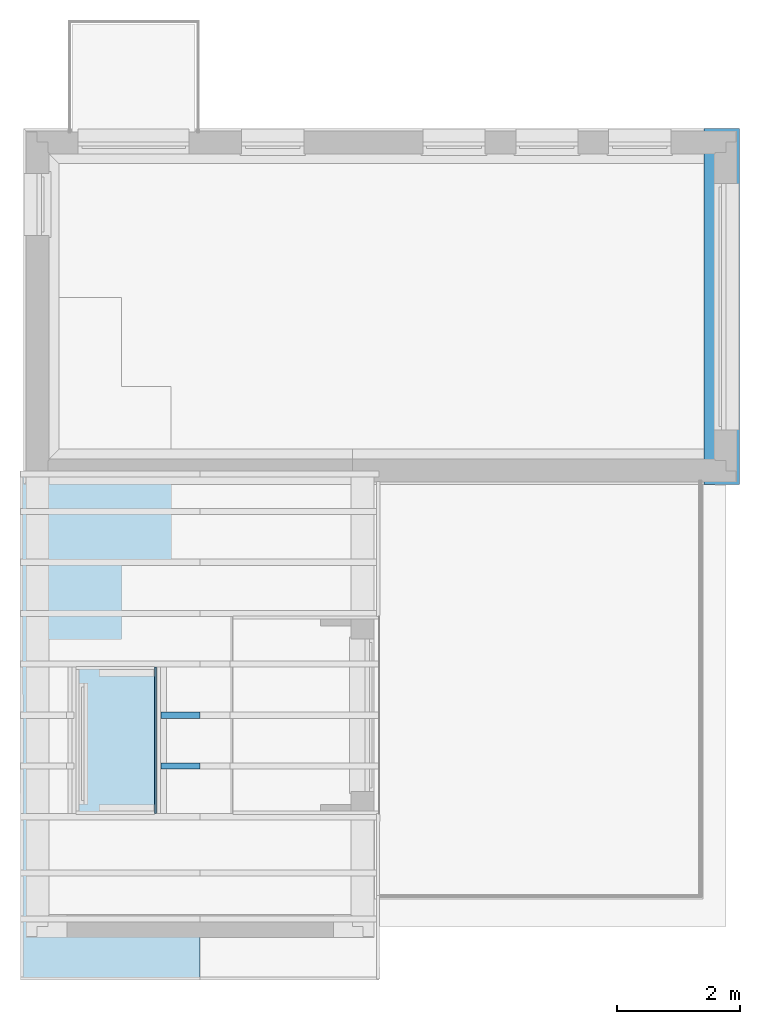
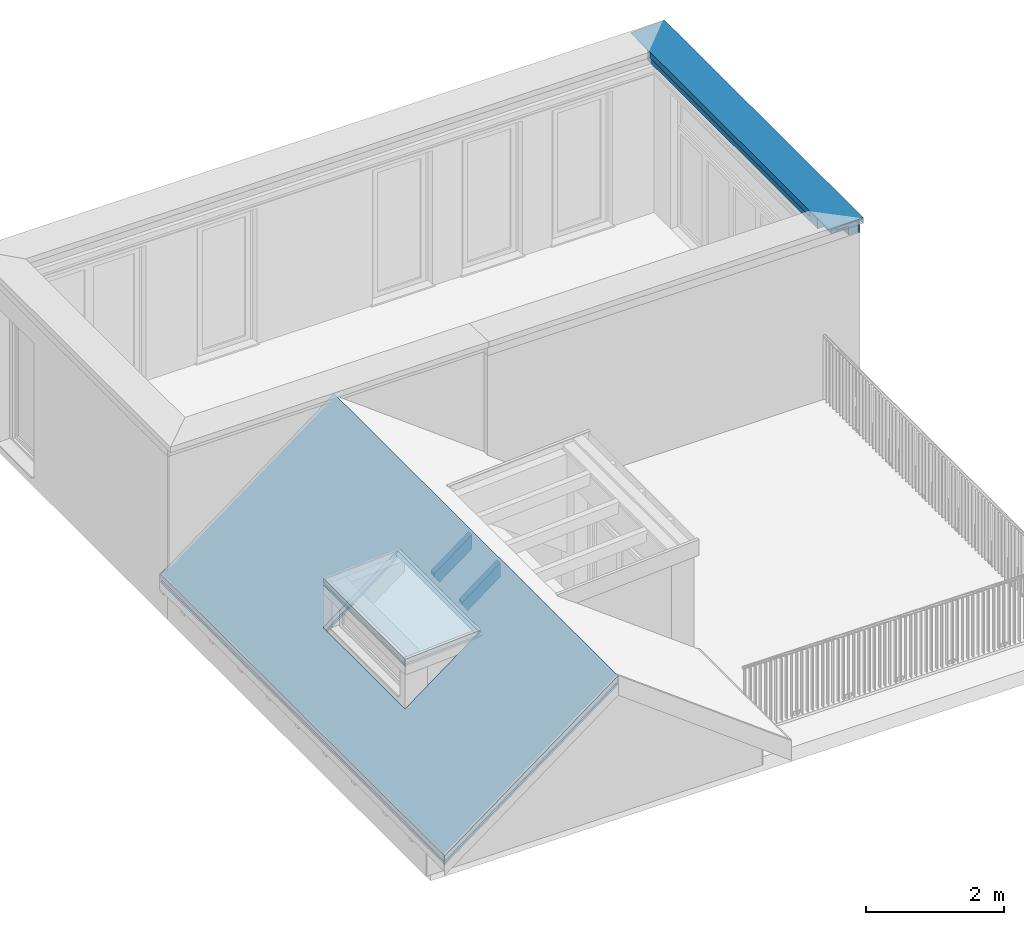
# One storey, part 6 of 15: 3 beams, 2 slabs.
"""IFC4 building model written with IfcOpenShell, lengths in metres."""

from ifc_helpers import new_model, entity, si_unit, converted_unit, derived_unit, direction, frame, origin_with_axes, place, context, subcontext, project, spatial, triangles, material, constituent, constituent_set, type_object, element, save


model = new_model("IFC4")

# Units and contexts
model_context = context("Model", 3, precision=1e-05, world=origin_with_axes(), true_north=direction((-0.526213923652, 0.850352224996)))
body_context = subcontext(model_context, "Body", "Model", "MODEL_VIEW")
ifc_project = project(units=[si_unit("LENGTHUNIT", "METRE"), si_unit("AREAUNIT", "SQUARE_METRE"), si_unit("VOLUMEUNIT", "CUBIC_METRE"), converted_unit("PLANEANGLEUNIT", "DEGREE", entity("IfcPlaneAngleMeasure", 0.0174532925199), si_unit("PLANEANGLEUNIT", "RADIAN"), dimensions=[0, 0, 0, 0, 0, 0, 0]), si_unit("SOLIDANGLEUNIT", "STERADIAN"), converted_unit("TIMEUNIT", "Year", entity("IfcTimeMeasure", 31556926.0), si_unit("TIMEUNIT", "SECOND"), dimensions=[0, 0, 1, 0, 0, 0, 0]), si_unit("MASSUNIT", "GRAM", prefix="KILO"), si_unit("THERMODYNAMICTEMPERATUREUNIT", "DEGREE_CELSIUS"), si_unit("LUMINOUSINTENSITYUNIT", "LUMEN"), si_unit("ENERGYUNIT", "JOULE", prefix="MEGA"), derived_unit("THERMALCONDUCTANCEUNIT", [(si_unit("POWERUNIT", "WATT"), 1), (si_unit("LENGTHUNIT", "METRE"), -1), (si_unit("THERMODYNAMICTEMPERATUREUNIT", "KELVIN"), -1)]), derived_unit("SPECIFICHEATCAPACITYUNIT", [(si_unit("ENERGYUNIT", "JOULE"), 1), (si_unit("MASSUNIT", "GRAM", prefix="KILO"), -1), (si_unit("THERMODYNAMICTEMPERATUREUNIT", "KELVIN"), -1)]), derived_unit("MASSDENSITYUNIT", [(si_unit("MASSUNIT", "GRAM", prefix="KILO"), 1), (si_unit("VOLUMEUNIT", "CUBIC_METRE"), -1)])], contexts=[model_context])

# Site, building, storey, space
site_placement = place(None, origin_with_axes())
site = spatial("IfcSite", under=ifc_project, at=site_placement, Name="Gelände", CompositionType="ELEMENT")
building_placement = place(site_placement, origin_with_axes())
building = spatial("IfcBuilding", under=site, at=building_placement, Name="Haus vom Nikolaus", CompositionType="ELEMENT")
storey_placement = place(building_placement, frame((0.0, 0.0, 3.75), z_axis=(0.0, 0.0, 1.0), x_axis=(1.0, 0.0, 0.0)))
storey = spatial("IfcBuildingStorey", under=building, at=storey_placement, Name="1. OG", CompositionType="ELEMENT", Elevation=3.75)
space_placement = place(storey_placement, frame((-0.115002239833, 5.36483188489, 0.0), z_axis=(0.0, 0.0, 1.0), x_axis=(-1.0, 0.0, 0.0)))
space = spatial("IfcSpace", under=storey, at=space_placement, Name="OG", CompositionType="ELEMENT")

# Beams
ifc_material_1 = material(Name="Verputz, Kalkzement")
ifc_constituent_1 = constituent(ifc_material_1, Name="Component 1")
ifc_material_2 = material(Name="Holz, Bauholz")
ifc_constituent_2 = constituent(ifc_material_2, Name="Component 2")
ifc_material_3 = material(Name="Dämmung, hart XPS")
ifc_constituent_3 = constituent(ifc_material_3, Name="Component 3")
ifc_material_4 = material(Name="Holz, Brettschichtholz")
ifc_constituent_4 = constituent(ifc_material_4, Name="Component 4")
ifc_material_5 = material(Name="MW Kalksandstein")
ifc_constituent_5 = constituent(ifc_material_5, Name="Component 5")
ifc_constituent_6 = constituent(ifc_material_2, Name="Component 6")
ifc_constituent_7 = constituent(ifc_material_3, Name="Component 7")
ifc_material_6 = material(Name="Holz, Spanplatte")
ifc_constituent_8 = constituent(ifc_material_6, Name="Component 8")
ifc_material_7 = material(Name="Metall, Stahl verzinkt")
ifc_constituent_9 = constituent(ifc_material_7, Name="Component 9")
ifc_constituent_set_1 = constituent_set(constituents=[ifc_constituent_1, ifc_constituent_2, ifc_constituent_3, ifc_constituent_4, ifc_constituent_5, ifc_constituent_6, ifc_constituent_7, ifc_constituent_8, ifc_constituent_9], Name="Bauteil - Attika Mauerwerk")
beam_type_1 = type_object("IfcBeamType", Name="Bauteil - Attika Mauerwerk 574 x 270", PredefinedType="NOTDEFINED")
beam_1_placement = place(space_placement, frame((-11.3749998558, -7.45000018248, 2.82), z_axis=(0.0, 0.0, 1.0), x_axis=(0.0, 1.0, 0.0)))
element("IfcBeam", 1, at=beam_1_placement, inside=space, type_object=beam_type_1, material=ifc_constituent_set_1, Name="Attika-Wand-004", ObjectType="Bauteil - Attika Mauerwerk 574 x 270", context=body_context, shape_type="Tessellation", body=[
    triangles([(-0.180000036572, 0.180000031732, 0.300000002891), (5.53000003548, 0.160124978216, 0.300000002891), (5.53000003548, 0.180000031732, 0.300000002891), (-0.180000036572, 0.160124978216, 0.300000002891), (5.53000002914, 0.180000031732, 0.259126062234), (5.53000002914, 0.160039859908, 0.259126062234), (5.53000002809, 0.180000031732, 0.251263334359), (-0.180000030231, 0.180000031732, 0.259126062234), (5.53000002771, 0.180000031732, 0.24895224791), (-0.180000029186, 0.180000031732, 0.251263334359), (-0.180000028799, 0.180000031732, 0.24895224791), (-0.180000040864, 0.180000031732, 0.079999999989), (5.53000003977, 0.180000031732, 0.0799999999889), (-0.180000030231, 0.160039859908, 0.259126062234), (-0.180000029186, 0.160023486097, 0.251263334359), (5.53000003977, 0.160000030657, 0.239999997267), (-0.180000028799, 0.160018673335, 0.24895224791), (-0.180000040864, 0.160000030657, 0.239999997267), (5.53000002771, 0.160018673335, 0.24895224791), (5.53000002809, 0.160023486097, 0.251263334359), (5.53000003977, 0.160000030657, 0.0799999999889), (-0.180000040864, 0.160000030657, 0.079999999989)], [[1, 2, 3], [1, 4, 2], [2, 5, 3], [2, 6, 5], [7, 8, 5], [9, 10, 7], [11, 9, 12], [10, 9, 11], [12, 9, 13], [8, 7, 10], [1, 3, 8], [5, 8, 3], [8, 4, 1], [8, 14, 4], [2, 14, 6], [14, 2, 4], [15, 6, 14], [16, 17, 18], [19, 15, 17], [20, 6, 15], [19, 17, 16], [20, 15, 19], [7, 6, 20], [6, 7, 5], [9, 20, 19], [20, 9, 7], [13, 16, 21], [16, 9, 19], [16, 13, 9], [21, 12, 13], [21, 22, 12], [11, 18, 17], [18, 11, 12], [18, 12, 22], [11, 15, 10], [11, 17, 15], [10, 14, 8], [10, 15, 14], [16, 22, 21], [16, 18, 22]], closed=True),
    triangles([(5.46003924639, 0.110039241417, 0.315979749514), (-0.110039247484, 0.110039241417, 0.315979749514), (5.46000722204, 0.110007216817, 0.321948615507), (5.46008287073, 0.110082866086, 0.30784881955), (5.46012498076, 0.110124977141, 0.300000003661), (-0.110124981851, 0.110124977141, 0.300000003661), (-0.110082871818, 0.110082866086, 0.30784881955), (-0.110007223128, 0.110007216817, 0.321948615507), (5.45999600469, 0.109995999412, 0.324039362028), (-0.109996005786, 0.109995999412, 0.324039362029), (5.46000722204, 0.0501249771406, 0.321948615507), (5.46003924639, 0.0501249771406, 0.315979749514), (5.46008287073, 0.0501249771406, 0.30784881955), (5.46012498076, 0.0501249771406, 0.300000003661), (-0.110124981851, 0.0501249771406, 0.300000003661), (-0.110082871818, 0.0501249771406, 0.30784881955), (-0.110039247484, 0.0501249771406, 0.315979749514), (-0.110007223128, 0.0501249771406, 0.321948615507)], [[1, 2, 3], [4, 2, 1], [5, 6, 4], [2, 4, 7], [8, 3, 2], [7, 4, 6], [3, 8, 9], [10, 9, 8], [9, 11, 3], [12, 3, 11], [12, 1, 3], [13, 1, 12], [13, 4, 1], [14, 4, 13], [14, 5, 4], [15, 5, 14], [15, 6, 5], [15, 7, 6], [7, 15, 16], [16, 2, 7], [2, 16, 17], [17, 8, 2], [8, 17, 18], [18, 10, 8], [10, 11, 9], [10, 18, 11], [11, 17, 12], [17, 11, 18], [13, 17, 16], [13, 15, 14], [17, 13, 12], [15, 13, 16]], closed=True),
    triangles([(-0.160000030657, 0.16, 0.239999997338), (5.51000002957, 0.0, 0.24000000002), (5.51000002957, 0.16, 0.24000000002), (-0.160000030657, 0.0, 0.239999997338), (5.51000002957, 0.16, 0.238724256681), (5.51000002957, 0.0, 0.238724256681), (-0.160000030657, 0.16, 0.238724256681), (-0.160000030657, 0.16, 0.23090849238), (5.51000002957, 0.16, 0.228597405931), (-0.160000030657, 0.16, 0.228597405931), (5.51000002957, 0.16, 0.23090849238), (-0.160000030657, 0.16, 0.0800000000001), (5.51000002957, 0.16, 0.08), (-0.160000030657, 0.0, 0.238724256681), (5.51000002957, 0.0, 0.228597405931), (-0.160000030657, 0.0, 0.23090849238), (-0.160000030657, 0.0, 0.228597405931), (-0.160000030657, 0.0, 0.0800000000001), (5.51000002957, 0.0, 0.08), (5.51000002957, 0.0, 0.23090849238)], [[1, 2, 3], [1, 4, 2], [2, 5, 3], [2, 6, 5], [7, 5, 8], [9, 10, 11], [8, 11, 10], [10, 9, 12], [12, 9, 13], [1, 5, 7], [11, 8, 5], [5, 1, 3], [7, 4, 1], [7, 14, 4], [14, 6, 4], [4, 6, 2], [15, 16, 17], [16, 6, 14], [15, 18, 19], [20, 6, 16], [18, 15, 17], [20, 16, 15], [20, 5, 6], [20, 11, 5], [15, 11, 20], [15, 9, 11], [19, 9, 15], [19, 13, 9], [18, 13, 19], [18, 12, 13], [12, 17, 10], [12, 18, 17], [10, 16, 8], [10, 17, 16], [8, 14, 7], [8, 16, 14]], closed=True),
    triangles([(-0.160124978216, 0.160124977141, 0.30000000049), (5.51012497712, 0.110124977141, 0.300000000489), (5.51012497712, 0.160124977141, 0.300000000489), (-0.160124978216, 0.110124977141, 0.30000000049), (5.51012497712, 0.0501249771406, 0.300000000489), (5.51003985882, 0.160039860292, 0.259126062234), (5.51003985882, -0.2, 0.259126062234), (5.51012497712, -0.12, 0.300000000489), (5.51012497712, -0.18, 0.300000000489), (5.51012497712, -0.2, 0.300000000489), (5.51001867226, 0.160018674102, 0.24895224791), (-0.160023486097, 0.160023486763, 0.251263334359), (5.51002348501, 0.160023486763, 0.251263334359), (-0.160018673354, 0.160018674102, 0.24895224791), (-0.160000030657, 0.160000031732, 0.239999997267), (5.51000002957, 0.160000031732, 0.239999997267), (-0.160039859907, 0.160039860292, 0.259126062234), (-0.160124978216, 0.0501249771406, 0.30000000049), (-0.160039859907, -0.2, 0.259126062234), (-0.160124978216, -0.12, 0.30000000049), (-0.160124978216, -0.18, 0.30000000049), (-0.160124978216, -0.2, 0.30000000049), (-0.160023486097, -0.2, 0.251263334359), (5.51001867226, -0.2, 0.24895224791), (-0.160000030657, -0.2, 0.239999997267), (5.51000002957, -0.2, 0.239999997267), (-0.160018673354, -0.2, 0.24895224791), (5.51002348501, -0.2, 0.251263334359)], [[1, 2, 3], [1, 4, 2], [5, 6, 2], [2, 6, 3], [7, 5, 8], [7, 8, 9], [7, 9, 10], [5, 7, 6], [11, 12, 13], [14, 11, 15], [12, 11, 14], [15, 11, 16], [13, 12, 6], [6, 17, 3], [17, 6, 12], [1, 3, 17], [18, 19, 20], [17, 4, 1], [18, 4, 17], [21, 19, 22], [20, 19, 21], [19, 18, 17], [4, 5, 2], [4, 18, 5], [18, 8, 5], [18, 20, 8], [20, 9, 8], [20, 21, 9], [21, 10, 9], [21, 22, 10], [19, 7, 22], [22, 7, 10], [23, 7, 19], [24, 25, 26], [24, 23, 27], [28, 7, 23], [25, 24, 27], [28, 23, 24], [13, 7, 28], [7, 13, 6], [11, 28, 24], [28, 11, 13], [16, 24, 26], [24, 16, 11], [25, 16, 26], [25, 15, 16], [15, 27, 14], [15, 25, 27], [14, 23, 12], [14, 27, 23], [12, 19, 17], [12, 23, 19]], closed=True),
    triangles([(0.0, 0.0, 0.24), (5.34999999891, -0.2, 0.24), (5.34999999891, 0.0, 0.24), (0.0, -0.2, 0.24), (5.34999999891, 0.0, 0.238724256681), (5.34999999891, -0.2, 0.238724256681), (0.0, 0.0, 0.238724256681), (0.0, 0.0, 0.23090849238), (5.34999999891, 0.0, 0.228597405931), (0.0, 0.0, 0.228597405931), (5.34999999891, 0.0, 0.23090849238), (0.0, 0.0, 0.08), (5.34999999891, 0.0, 0.0799999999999), (0.0, -0.2, 0.238724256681), (5.34999999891, -0.2, 0.228597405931), (0.0, -0.2, 0.23090849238), (0.0, -0.2, 0.228597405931), (0.0, -0.2, 0.08), (5.34999999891, -0.2, 0.0799999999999), (5.34999999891, -0.2, 0.23090849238)], [[1, 2, 3], [1, 4, 2], [2, 5, 3], [2, 6, 5], [7, 5, 8], [9, 10, 11], [8, 11, 10], [10, 9, 12], [12, 9, 13], [5, 7, 3], [11, 8, 5], [1, 3, 7], [14, 1, 7], [1, 14, 4], [14, 6, 4], [4, 6, 2], [15, 16, 17], [16, 6, 14], [15, 18, 19], [18, 15, 17], [20, 16, 15], [16, 20, 6], [20, 5, 6], [20, 11, 5], [15, 11, 20], [15, 9, 11], [19, 9, 15], [19, 13, 9], [18, 13, 19], [18, 12, 13], [18, 10, 12], [10, 18, 17], [10, 16, 8], [10, 17, 16], [8, 14, 7], [8, 16, 14]], closed=True),
    triangles([(0.119999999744, -0.180110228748, 0.313880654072), (5.22999999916, -0.12, 0.315979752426), (0.119999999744, -0.12, 0.315979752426), (5.22999999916, -0.180110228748, 0.313880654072), (5.22999999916, -0.12, 0.30784881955), (5.22999999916, -0.180062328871, 0.30784881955), (0.119999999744, -0.12, 0.30784881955), (0.119999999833, -0.12, 0.300000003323), (5.22999999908, -0.12, 0.300000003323), (0.119999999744, -0.180062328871, 0.30784881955), (0.119999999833, -0.18, 0.300000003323), (5.22999999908, -0.18, 0.300000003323)], [[1, 2, 3], [2, 1, 4], [4, 5, 2], [4, 6, 5], [3, 2, 7], [8, 5, 9], [7, 5, 8], [5, 7, 2], [7, 1, 3], [7, 10, 1], [10, 6, 1], [1, 6, 4], [11, 6, 10], [11, 12, 6], [12, 5, 6], [12, 9, 5], [11, 9, 12], [11, 8, 9], [11, 7, 8], [7, 11, 10]], closed=True),
    triangles([(0.2, -0.2, 0.300000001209), (5.14999999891, -0.31028294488, 0.300000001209), (5.14999999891, -0.2, 0.300000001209), (0.2, -0.31028294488, 0.300000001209), (5.14999999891, -0.2, 0.259126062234), (5.14999999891, -0.31028294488, 0.259126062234), (0.2, -0.2, 0.24895224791), (5.14999999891, -0.2, 0.24895224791), (0.2, -0.2, 0.24), (5.14999999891, -0.2, 0.238724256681), (0.2, -0.2, 0.238724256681), (5.14999999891, -0.2, 0.24), (0.2, -0.2, 0.23090849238), (5.14999999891, -0.2, 0.23090849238), (0.2, -0.2, 0.228597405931), (5.14999999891, -0.2, 0.228597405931), (0.2, -0.2, 0.0800000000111), (5.14999999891, -0.2, 0.0800000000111), (5.14999999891, -0.2, 0.251263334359), (0.2, -0.2, 0.251263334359), (0.2, -0.2, 0.259126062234), (0.2, -0.31028294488, 0.259126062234), (5.14999999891, -0.31028294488, 0.24895224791), (0.2, -0.31028294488, 0.251263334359), (0.2, -0.31028294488, 0.24895224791), (0.2, -0.31028294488, 0.238724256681), (5.14999999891, -0.31028294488, 0.238724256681), (0.2, -0.31028294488, 0.24), (0.2, -0.31028294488, 0.23090849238), (5.14999999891, -0.31028294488, 0.23090849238), (5.14999999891, -0.31028294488, 0.228597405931), (0.2, -0.31028294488, 0.228597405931), (0.2, -0.31028294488, 0.0800000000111), (5.14999999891, -0.31028294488, 0.0800000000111), (5.14999999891, -0.31028294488, 0.251263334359), (5.14999999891, -0.31028294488, 0.24)], [[1, 2, 3], [1, 4, 2], [2, 5, 3], [2, 6, 5], [7, 8, 9], [10, 11, 12], [9, 12, 11], [11, 10, 13], [14, 13, 10], [13, 14, 15], [16, 15, 14], [15, 16, 17], [17, 16, 18], [8, 7, 19], [12, 9, 8], [20, 19, 7], [19, 20, 5], [21, 5, 20], [5, 21, 3], [1, 3, 21], [22, 1, 21], [1, 22, 4], [2, 22, 6], [22, 2, 4], [23, 24, 25], [24, 6, 22], [26, 27, 28], [27, 29, 30], [30, 29, 31], [31, 29, 32], [31, 33, 34], [35, 6, 24], [33, 31, 32], [29, 27, 26], [36, 28, 27], [23, 28, 36], [28, 23, 25], [35, 24, 23], [35, 5, 6], [35, 19, 5], [23, 19, 35], [23, 8, 19], [36, 8, 23], [36, 12, 8], [10, 36, 27], [36, 10, 12], [30, 10, 27], [30, 14, 10], [31, 14, 30], [31, 16, 14], [18, 31, 34], [31, 18, 16], [33, 18, 34], [33, 17, 18], [33, 15, 17], [15, 33, 32], [15, 29, 13], [15, 32, 29], [13, 26, 11], [13, 29, 26], [11, 28, 9], [11, 26, 28], [9, 25, 7], [9, 28, 25], [7, 24, 20], [7, 25, 24], [20, 22, 21], [20, 24, 22]], closed=True),
    triangles([(5.56635663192, 0.216356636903, 0.327839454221), (5.56635962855, -0.354335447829, 0.327753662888), (5.56635948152, 0.216359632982, 0.327753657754), (5.56635663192, -0.354338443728, 0.327839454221), (-0.216356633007, -0.354338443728, 0.327839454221), (-0.109996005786, -0.354205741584, 0.324039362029), (5.40012497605, -0.354132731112, 0.321948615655), (5.45999600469, -0.354205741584, 0.324039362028), (-0.216359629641, -0.354335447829, 0.327753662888), (-0.0501249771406, -0.354132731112, 0.321948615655), (0.120801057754, -0.353924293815, 0.315979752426), (0.353640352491, -0.35364018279, 0.307848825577), (4.99635964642, -0.353640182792, 0.307848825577), (5.22919894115, -0.353924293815, 0.315979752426), (5.45999600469, 0.10999611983, 0.324039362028), (-0.21635948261, 0.216359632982, 0.327753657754), (5.56563614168, 0.215636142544, 0.348471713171), (-0.216356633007, 0.216356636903, 0.327839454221), (-0.215636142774, 0.215636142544, 0.348471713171), (5.40012497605, 0.0501249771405, 0.321948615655), (-0.109996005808, 0.109995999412, 0.324039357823), (-0.0501249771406, 0.0501249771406, 0.321948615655), (0.120801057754, -0.120800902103, 0.315979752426), (5.22919894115, -0.120800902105, 0.315979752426)], [[1, 2, 3], [2, 1, 4], [4, 5, 6], [4, 7, 8], [4, 8, 2], [6, 5, 9], [4, 6, 10], [4, 10, 11], [4, 11, 12], [4, 12, 13], [4, 14, 7], [4, 13, 14], [15, 2, 8], [15, 3, 2], [3, 16, 1], [17, 18, 19], [18, 1, 16], [18, 17, 1], [17, 4, 1], [20, 8, 7], [20, 15, 8], [17, 5, 4], [17, 19, 5], [5, 18, 9], [16, 9, 18], [21, 9, 16], [9, 21, 6], [22, 6, 21], [6, 22, 10], [23, 10, 22], [10, 23, 11], [23, 12, 11], [23, 20, 24], [23, 24, 12], [12, 24, 13], [20, 23, 22], [24, 14, 13], [24, 7, 14], [24, 20, 7], [15, 16, 3], [16, 15, 21], [19, 18, 5], [15, 22, 21], [22, 15, 20]], closed=True),
    triangles([(0.354734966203, -0.35473497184, 0.228597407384), (4.99622231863, -0.355692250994, 0.229554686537), (0.353777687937, -0.355692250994, 0.229554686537), (4.99526504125, -0.35473497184, 0.228597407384), (4.99757612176, -0.354338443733, 0.230908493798), (4.99757612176, -0.355692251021, 0.23090849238), (4.99757612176, -0.352423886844, 0.23090849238), (0.354338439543, -0.355692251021, 0.259126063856), (4.99566155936, -0.355692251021, 0.300000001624), (0.354338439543, -0.355692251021, 0.300000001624), (4.99566155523, -0.355692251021, 0.230908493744), (4.99566155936, -0.355692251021, 0.307848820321), (4.99566155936, -0.355692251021, 0.315979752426), (0.354338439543, -0.355692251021, 0.307848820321), (0.354338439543, -0.355692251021, 0.315979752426), (4.99566155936, -0.355692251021, 0.321948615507), (0.354338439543, -0.355692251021, 0.321948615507), (0.354338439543, -0.355692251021, 0.324039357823), (4.99566155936, -0.355692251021, 0.324039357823), (0.354338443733, -0.355692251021, 0.327839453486), (4.99566155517, -0.355692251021, 0.327839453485), (5.03173101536, -0.355692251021, 0.329145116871), (0.318268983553, -0.355692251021, 0.329145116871), (4.99566155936, -0.355692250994, 0.24), (0.354338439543, -0.355692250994, 0.238724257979), (4.99566155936, -0.355692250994, 0.238724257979), (4.99566155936, -0.355692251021, 0.259126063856), (0.354338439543, -0.355692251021, 0.251263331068), (4.99566155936, -0.355692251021, 0.251263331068), (0.354338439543, -0.355692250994, 0.24895224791), (4.99566155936, -0.355692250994, 0.24895224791), (0.354338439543, -0.355692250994, 0.24), (0.354338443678, -0.355692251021, 0.230908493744), (0.352423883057, -0.355692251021, 0.23090849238), (0.352423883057, -0.354338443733, 0.230908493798), (0.352423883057, -0.352423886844, 0.23090849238), (5.00448155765, -0.345518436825, 0.237813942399), (0.345518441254, -0.345518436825, 0.237813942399), (5.00448155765, -0.347432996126, 0.237813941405), (4.99566155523, -0.354338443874, 0.230908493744), (4.99566155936, -0.354338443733, 0.238724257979), (4.99566155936, -0.354338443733, 0.24), (4.99566155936, -0.354338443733, 0.24895224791), (4.99566155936, -0.354338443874, 0.251263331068), (4.99566155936, -0.354338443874, 0.259126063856), (4.99566155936, -0.354338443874, 0.300000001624), (4.99566155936, -0.354338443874, 0.307848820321), (4.99566155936, -0.354338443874, 0.315979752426), (4.99566155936, -0.354338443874, 0.321948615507), (4.99566155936, -0.354338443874, 0.324039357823), (4.99566155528, -0.354338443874, 0.327839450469), (5.56563614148, 0.178177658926, 0.3484717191), (5.56563614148, 0.215636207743, 0.3484717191), (5.56785989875, 0.217859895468, 0.349908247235), (5.56651244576, 0.179090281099, 0.348504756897), (-0.217859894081, 0.217859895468, 0.349908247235), (5.56785989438, 0.179090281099, 0.348504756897), (-0.215636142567, 0.178177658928, 0.3484717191), (-0.216512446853, 0.179090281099, 0.348504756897), (-0.217859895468, 0.179090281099, 0.348504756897), (0.354338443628, -0.354338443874, 0.327839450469), (-0.215636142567, 0.215636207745, 0.3484717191), (0.354338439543, -0.354338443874, 0.324039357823), (0.354338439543, -0.354338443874, 0.321948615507), (0.354338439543, -0.354338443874, 0.315979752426), (0.354338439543, -0.354338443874, 0.307848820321), (0.354338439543, -0.354338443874, 0.300000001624), (0.354338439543, -0.354338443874, 0.259126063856), (0.354338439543, -0.354338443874, 0.251263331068), (0.354338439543, -0.354338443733, 0.24895224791), (0.354338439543, -0.354338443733, 0.24), (0.354338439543, -0.354338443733, 0.238724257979), (0.354338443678, -0.354338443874, 0.230908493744), (0.345518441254, -0.347432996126, 0.237813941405), (5.00347730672, -0.346522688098, 0.238724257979), (0.34652269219, -0.346522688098, 0.238724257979), (5.56651244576, 0.216512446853, 0.348504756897), (5.56785989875, 0.216512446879, 0.348504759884), (5.56785989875, 0.217859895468, 0.24990953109), (5.56785989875, 0.216506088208, 0.251263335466), (5.56785989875, 0.215945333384, 0.24990953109), (5.56785989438, 0.214591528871, 0.251263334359), (-0.217859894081, 0.217859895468, 0.24990953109), (-0.217859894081, 0.215945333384, 0.24990953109), (-0.217859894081, 0.216506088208, 0.251263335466), (-0.217859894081, 0.216512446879, 0.348504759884), (-0.217859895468, 0.214591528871, 0.251263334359), (-0.216512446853, 0.216512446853, 0.348504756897), (-0.21650608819, 0.216506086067, 0.251263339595), (5.5665060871, 0.216506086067, 0.251263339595), (5.5665060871, 0.214591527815, 0.251263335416), (5.55964761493, 0.207733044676, 0.258121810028), (5.56690260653, 0.216902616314, 0.248952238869), (-0.209647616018, 0.207733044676, 0.258121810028), (-0.216902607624, 0.216902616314, 0.248952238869), (-0.21650608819, 0.214591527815, 0.251263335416), (5.55864336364, 0.208643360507, 0.259126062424), (-0.208643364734, 0.208643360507, 0.259126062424)], [[1, 2, 3], [2, 1, 4], [5, 6, 2], [5, 4, 7], [4, 5, 2], [8, 9, 10], [11, 2, 6], [12, 10, 9], [13, 14, 12], [10, 12, 14], [14, 13, 15], [16, 15, 13], [15, 16, 17], [17, 16, 18], [19, 18, 16], [18, 19, 20], [21, 20, 19], [22, 20, 21], [22, 23, 20], [24, 25, 26], [9, 8, 27], [27, 28, 29], [28, 27, 8], [30, 29, 28], [29, 30, 31], [32, 31, 30], [31, 32, 24], [25, 24, 32], [33, 26, 25], [26, 33, 11], [3, 11, 33], [11, 3, 2], [34, 3, 33], [35, 3, 34], [36, 1, 35], [3, 35, 1], [1, 7, 4], [37, 36, 38], [7, 1, 36], [7, 36, 37], [39, 7, 37], [7, 39, 5], [40, 6, 5], [6, 40, 11], [40, 26, 11], [40, 41, 26], [41, 24, 26], [41, 42, 24], [42, 31, 24], [42, 43, 31], [44, 31, 43], [31, 44, 29], [44, 27, 29], [44, 45, 27], [45, 9, 27], [45, 46, 9], [46, 12, 9], [46, 47, 12], [47, 13, 12], [47, 48, 13], [48, 16, 13], [48, 49, 16], [49, 19, 16], [49, 50, 19], [51, 19, 50], [19, 51, 21], [52, 51, 53], [51, 22, 21], [51, 52, 22], [54, 52, 55], [54, 22, 52], [56, 22, 54], [54, 55, 57], [22, 56, 23], [58, 56, 59], [60, 59, 56], [56, 58, 23], [61, 58, 62], [61, 23, 58], [23, 61, 20], [61, 18, 20], [61, 63, 18], [63, 17, 18], [63, 64, 17], [64, 15, 17], [64, 65, 15], [65, 14, 15], [65, 66, 14], [66, 10, 14], [66, 67, 10], [67, 8, 10], [67, 68, 8], [68, 28, 8], [68, 69, 28], [69, 30, 28], [69, 70, 30], [71, 30, 70], [30, 71, 32], [71, 25, 32], [71, 72, 25], [73, 25, 72], [25, 73, 33], [73, 34, 33], [73, 35, 34], [35, 74, 36], [38, 36, 74], [37, 38, 75], [76, 75, 38], [75, 39, 37], [73, 76, 35], [75, 5, 39], [76, 73, 75], [35, 76, 74], [40, 5, 75], [40, 75, 73], [70, 43, 71], [71, 42, 72], [42, 71, 43], [41, 72, 42], [72, 41, 73], [73, 41, 40], [69, 44, 70], [43, 70, 44], [44, 69, 45], [68, 45, 69], [46, 68, 67], [64, 49, 65], [49, 64, 50], [63, 50, 64], [50, 63, 51], [51, 63, 61], [68, 46, 45], [48, 65, 49], [65, 48, 66], [47, 66, 48], [66, 47, 67], [46, 67, 47], [62, 51, 61], [62, 53, 51], [52, 53, 55], [77, 55, 53], [77, 57, 55], [77, 78, 57], [78, 79, 54], [80, 81, 79], [57, 78, 54], [81, 80, 82], [78, 80, 79], [83, 54, 79], [83, 56, 54], [83, 84, 85], [83, 86, 56], [85, 84, 87], [86, 83, 85], [60, 56, 86], [86, 59, 60], [86, 88, 59], [62, 59, 88], [59, 62, 58], [38, 74, 76], [88, 77, 62], [62, 77, 53], [89, 88, 85], [77, 80, 78], [85, 88, 86], [90, 88, 89], [88, 90, 77], [77, 90, 80], [82, 91, 81], [92, 93, 91], [94, 95, 92], [95, 94, 96], [95, 96, 84], [93, 92, 95], [87, 84, 96], [81, 91, 93], [79, 81, 93], [90, 82, 80], [82, 90, 91], [93, 83, 79], [83, 93, 95], [89, 87, 96], [89, 85, 87], [83, 95, 84], [89, 97, 90], [97, 89, 98], [97, 91, 90], [91, 97, 92], [94, 92, 98], [98, 92, 97], [96, 98, 89], [98, 96, 94]], closed=True),
])
beam_type_2 = type_object("IfcBeamType", Name="Schifter RM 22", PredefinedType="NOTDEFINED")
beam_2_placement = place(space_placement, frame((-2.83039602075, 1.86714904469, 2.66698070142), z_axis=(0.0, 0.0, 1.0), x_axis=(1.0, 0.0, 0.0)))
element("IfcBeam", 2, at=beam_2_placement, inside=space, type_object=beam_type_2, material=ifc_material_2, Name="Sparren", ObjectType="Schifter RM 22", context=body_context, shape_type="Tessellation", body=[
    triangles([(0.0, -0.05, 0.249847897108), (0.0, 0.05, 0.0), (0.0, -0.05, 0.0), (0.0, 0.05, 0.249847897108), (0.542830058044, 0.05, -0.406434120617), (0.542830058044, -0.05, -0.406434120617), (0.634784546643, -0.05, -0.225435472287), (0.634784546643, -0.05, -0.283620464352), (0.634784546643, 0.05, -0.225435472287), (0.634784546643, 0.05, -0.283620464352)], [[1, 2, 3], [1, 4, 2], [3, 5, 6], [3, 2, 5], [6, 7, 3], [7, 6, 8], [7, 1, 3], [7, 4, 1], [7, 9, 4], [4, 9, 2], [9, 5, 2], [5, 9, 10], [6, 10, 8], [6, 5, 10], [8, 9, 7], [8, 10, 9]], closed=True),
])
beam_3_placement = place(space_placement, frame((-2.83039605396, 2.69058290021, 2.66695250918), z_axis=(0.0, 0.0, 1.0), x_axis=(1.0, 0.0, 0.0)))
element("IfcBeam", 3, at=beam_3_placement, inside=space, type_object=beam_type_2, material=ifc_material_2, Name="Sparren", ObjectType="Schifter RM 22", context=body_context, shape_type="Tessellation", body=[
    triangles([(0.0, -0.05, 0.249847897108), (0.0, 0.05, 0.0), (0.0, -0.05, 0.0), (0.0, 0.05, 0.249847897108), (0.544316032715, 0.05, -0.407546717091), (0.544316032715, -0.05, -0.407546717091), (0.636270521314, -0.05, -0.226548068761), (0.636270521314, -0.05, -0.284733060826), (0.636270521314, 0.05, -0.226548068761), (0.636270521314, 0.05, -0.284733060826)], [[1, 2, 3], [1, 4, 2], [3, 5, 6], [3, 2, 5], [6, 7, 3], [7, 6, 8], [7, 1, 3], [7, 4, 1], [7, 9, 4], [4, 9, 2], [9, 5, 2], [5, 9, 10], [5, 8, 6], [8, 5, 10], [8, 9, 7], [8, 10, 9]], closed=True),
])

# Slabs
ifc_material_8 = material(Name="Dach, Stehfalz")
ifc_constituent_10 = constituent(ifc_material_8, Name="Component 1")
ifc_material_9 = material(Name="Dämmung, hart Mineralwolle")
ifc_constituent_11 = constituent(ifc_material_9, Name="Component 2")
ifc_constituent_12 = constituent(ifc_material_2, Name="Component 3")
ifc_constituent_set_2 = constituent_set(constituents=[ifc_constituent_10, ifc_constituent_11, ifc_constituent_12], Name="DA |\xa0Komplett Stehfalz-Kopie")
slab_type = type_object("IfcSlabType", Name="DA |\xa0Komplett Stehfalz-Kopie 130", PredefinedType="ROOF")
slab_1_placement = place(space_placement, frame((0.079603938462, -1.93000019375, 0.644596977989), z_axis=(0.0, 0.0, 1.0), x_axis=(0.0, 1.0, 0.0)))
element("IfcSlab", 4, at=slab_1_placement, inside=space, type_object=slab_type, material=ifc_constituent_set_2, Name="Dach-008", PredefinedType="ROOF", context=body_context, shape_type="Tessellation", body=[
    triangles([(3.01714926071, 2.17706843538, 1.76100519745), (8.08999995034, 2.90999999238, 2.30970718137), (5.3971492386, 2.17706843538, 1.76100519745), (5.39714923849, 0.890981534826, 0.79818891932), (8.08999995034, 0.0, 0.131164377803), (3.01714926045, 2.02331521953, 1.6458993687), (-0.169999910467, 2.90999999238, 2.30970718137), (3.01714926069, 0.890981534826, 0.79818891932), (-0.169999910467, 0.0, 0.131164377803), (5.39714923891, 2.02331521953, 1.6458993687), (8.08999995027, 2.90999999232, 2.34093679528), (-0.169999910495, 2.90999999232, 2.34093679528), (8.08999995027, 0.0, 0.162393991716), (-0.169999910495, 0.0, 0.162393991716), (5.39714923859, 2.13143269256, 1.75807006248), (3.01714926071, 2.13143269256, 1.75807006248), (3.01714926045, 1.97767947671, 1.64296423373), (3.01714926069, 0.890981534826, 0.829418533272), (5.39714923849, 0.890981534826, 0.829418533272), (5.39714923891, 1.97767947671, 1.64296423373)], [[1, 2, 3], [4, 2, 5], [6, 7, 1], [2, 1, 7], [8, 7, 6], [8, 5, 9], [7, 8, 9], [8, 4, 5], [10, 3, 2], [4, 10, 2], [11, 7, 12], [11, 2, 7], [11, 13, 2], [5, 2, 13], [9, 13, 14], [13, 9, 5], [7, 14, 12], [14, 7, 9], [15, 1, 3], [15, 16, 1], [8, 6, 17], [6, 16, 17], [8, 17, 18], [16, 6, 1], [19, 8, 18], [19, 4, 8], [3, 10, 15], [20, 15, 10], [4, 20, 10], [20, 4, 19], [11, 20, 13], [20, 11, 15], [16, 11, 12], [17, 14, 18], [14, 17, 12], [19, 13, 20], [13, 18, 14], [18, 13, 19], [16, 12, 17], [11, 16, 15]], closed=True),
    triangles([(3.01714926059, 2.1951241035, 1.71206316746), (8.08999995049, 2.9099999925, 2.24724795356), (5.39714923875, 2.1951241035, 1.71206316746), (5.39714923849, 0.890981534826, 0.735729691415), (8.08999995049, 1.60981561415e-10, 0.0687051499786), (3.01714926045, 2.11458670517, 1.65176963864), (-0.169999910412, 2.9099999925, 2.24724795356), (3.01714926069, 0.890981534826, 0.735729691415), (-0.169999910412, 1.60978147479e-10, 0.0687051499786), (5.39714923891, 2.11458670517, 1.65176963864), (8.08999995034, 2.90999999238, 2.30970718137), (-0.169999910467, 2.90999999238, 2.30970718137), (8.08999995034, 0.0, 0.131164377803), (-0.169999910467, 0.0, 0.131164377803), (5.39714923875, 2.10385261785, 1.70619289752), (3.01714926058, 2.10385261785, 1.70619289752), (3.01714926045, 2.02331521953, 1.6458993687), (3.01714926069, 0.890981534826, 0.79818891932), (5.39714923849, 0.890981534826, 0.79818891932), (5.39714923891, 2.02331521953, 1.6458993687)], [[1, 2, 3], [4, 2, 5], [6, 7, 1], [2, 1, 7], [8, 7, 6], [8, 5, 9], [7, 8, 9], [8, 4, 5], [10, 3, 2], [4, 10, 2], [11, 7, 12], [11, 2, 7], [11, 13, 2], [5, 2, 13], [9, 13, 14], [13, 9, 5], [7, 14, 12], [14, 7, 9], [15, 1, 3], [15, 16, 1], [8, 6, 17], [6, 16, 17], [8, 17, 18], [16, 6, 1], [4, 18, 19], [18, 4, 8], [20, 4, 19], [10, 15, 3], [20, 15, 10], [4, 20, 10], [19, 11, 20], [20, 11, 15], [16, 11, 12], [13, 18, 14], [17, 12, 18], [11, 19, 13], [18, 13, 19], [14, 18, 12], [16, 12, 17], [11, 16, 15]], closed=True),
    triangles([(8.08999995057, 2.90999999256, 2.21601833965), (-0.169999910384, 2.90999999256, 2.21601833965), (3.01714926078, 2.16022244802, 1.65470477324), (3.01714926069, 0.890981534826, 0.704500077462), (8.08999995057, 2.14639750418e-10, 0.0374755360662), (5.39714923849, 0.890981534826, 0.704500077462), (-0.169999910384, 2.14637890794e-10, 0.0374755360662), (5.39714923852, 2.16022244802, 1.65470477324), (-0.169999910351, 2.79029493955e-10, 6.74249989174e-10), (8.08999995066, 2.79029355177e-10, 6.74249989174e-10), (8.08999995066, 2.90999999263, 2.17854280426), (-0.169999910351, 2.90999999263, 2.17854280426), (5.39714923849, 0.890981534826, 0.667024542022), (3.01714926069, 0.890981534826, 0.667024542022), (3.01714926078, 2.2149853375, 1.65822693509), (5.39714923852, 2.2149853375, 1.65822693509)], [[1, 2, 3], [4, 5, 6], [1, 6, 5], [4, 2, 7], [5, 4, 7], [4, 3, 2], [8, 6, 1], [3, 8, 1], [9, 5, 7], [9, 10, 5], [11, 5, 10], [5, 11, 1], [12, 1, 11], [1, 12, 2], [12, 7, 2], [12, 9, 7], [13, 4, 6], [13, 14, 4], [3, 14, 15], [3, 4, 14], [8, 15, 16], [8, 3, 15], [8, 13, 6], [13, 8, 16], [12, 11, 16], [14, 12, 15], [13, 11, 10], [14, 10, 9], [12, 16, 15], [13, 16, 11], [10, 14, 13], [12, 14, 9]], closed=True),
])
ifc_constituent_13 = constituent(ifc_material_8, Name="Component 1")
ifc_constituent_14 = constituent(ifc_material_9, Name="Component 2")
ifc_constituent_15 = constituent(ifc_material_2, Name="Component 3")
ifc_constituent_set_3 = constituent_set(constituents=[ifc_constituent_13, ifc_constituent_14, ifc_constituent_15], Name="DA |\xa0Komplett Stehfalz-Kopie")
slab_2_placement = place(space_placement, frame((-2.34796059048, 3.46714904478, 2.31649627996), z_axis=(0.0, 0.0, 1.0), x_axis=(0.0, -1.0, 0.0)))
element("IfcSlab", 5, at=slab_2_placement, inside=space, type_object=slab_type, material=ifc_constituent_set_3, Name="Dach-006", PredefinedType="ROOF", context=body_context, shape_type="Tessellation", body=[
    triangles([(0.0, 1.53658299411, 0.0314408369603), (2.37999997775, 0.259523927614, 0.113576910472), (2.37999997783, 1.53658299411, 0.0314408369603), (0.0, 0.259523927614, 0.113576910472), (2.37999997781, 0.296131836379, 0.0861707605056), (0.0, 0.296131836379, 0.0861707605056), (2.37999997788, 1.53658299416, 0.00638918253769), (0.0, 1.53658299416, 0.00638918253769)], [[1, 2, 3], [2, 1, 4], [4, 5, 2], [4, 6, 5], [5, 3, 2], [3, 5, 7], [7, 1, 3], [1, 7, 8], [4, 1, 6], [8, 6, 1], [8, 5, 6], [8, 7, 5]], closed=True),
    triangles([(0.0, 1.53658299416, 0.00638918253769), (2.37999997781, 0.250496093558, 0.0891058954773), (2.37999997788, 1.53658299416, 0.00638918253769), (0.0, 0.250496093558, 0.0891058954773), (2.37999997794, 0.323711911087, 0.034293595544), (-2.21879625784e-10, 0.323711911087, 0.034293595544), (2.37999997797, 1.53658299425, -0.0437141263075), (-2.11234585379e-10, 1.53658299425, -0.0437141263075)], [[1, 2, 3], [2, 1, 4], [4, 5, 2], [4, 6, 5], [5, 3, 2], [3, 5, 7], [7, 1, 3], [1, 7, 8], [4, 1, 6], [8, 6, 1], [8, 5, 6], [8, 7, 5]], closed=True),
    triangles([(-2.92271762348e-10, 1.5365829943, -0.06876578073), (2.379999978, 0.223412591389, 0.0156928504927), (2.37999997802, 1.5365829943, -0.06876578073), (-2.98558289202e-10, 0.223412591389, 0.0156928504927), (0.0, 0.267342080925, -0.0171945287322), (2.37999997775, 0.267342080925, -0.0171945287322), (2.37999997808, 1.53658299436, -0.0988277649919), (-3.89516419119e-10, 1.53658299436, -0.0988277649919)], [[1, 2, 3], [2, 1, 4], [5, 2, 4], [2, 5, 6], [6, 3, 2], [3, 6, 7], [7, 1, 3], [1, 7, 8], [4, 1, 5], [8, 5, 1], [7, 5, 8], [5, 7, 6]], closed=True),
])

save(model, "model.ifc")
